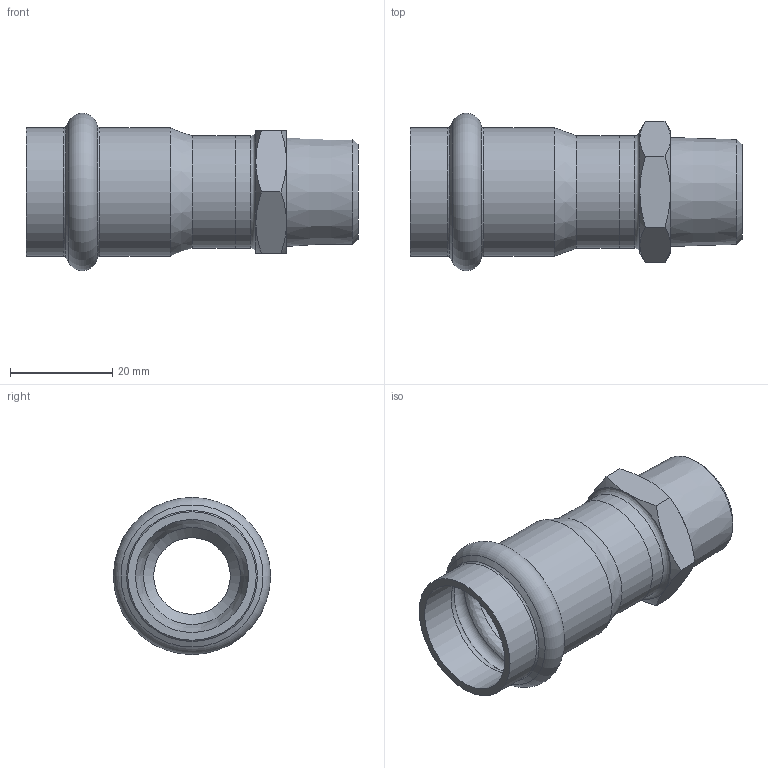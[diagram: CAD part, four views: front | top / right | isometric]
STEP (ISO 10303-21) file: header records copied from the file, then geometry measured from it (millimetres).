
FILE_DESCRIPTION((''),'2;1');
FILE_NAME('G:\Nirosan-Schmiedefeld\Technics\CAD\001 Serie 9.000\022\69243G2212H(2).stp','2018-08-28T08:54:53',('herberg'),(''),'Autodesk Inventor 2009','Autodesk Inventor 2009','');
FILE_SCHEMA(('AUTOMOTIVE_DESIGN { 1 0 10303 214 1 1 1 1 }'));
Length unit declared in the file: millimetre
Products named in the file (3): 69243G2212H(2); 69HM22P(1); AG2212(0)
Assembly tree (2 placements, depth 2):
  69243G2212H(2)
    69HM22P(1)
    AG2212(0)
Bounding box: 65 x 30.79 x 30.79 mm (x, y, z)
Volume: 9045.2 mm3; surface area: 10070.4 mm2
Topology: 2 solids, 2 shells, 46 faces, 97 edges, 56 vertices
Faces by surface type: cone 18, plane 11, bspline 8, cylinder 7, torus 2
Full cylindrical faces by diameter (mm): 19 x1, 22 x2, 22.15 x2, 25.15 x2
Entity records: 1369 total; most frequent: CARTESIAN_POINT 492, DIRECTION 172, ORIENTED_EDGE 140, AXIS2_PLACEMENT_3D 83, EDGE_LOOP 74, EDGE_CURVE 70, VERTEX_POINT 52, FACE_OUTER_BOUND 46
